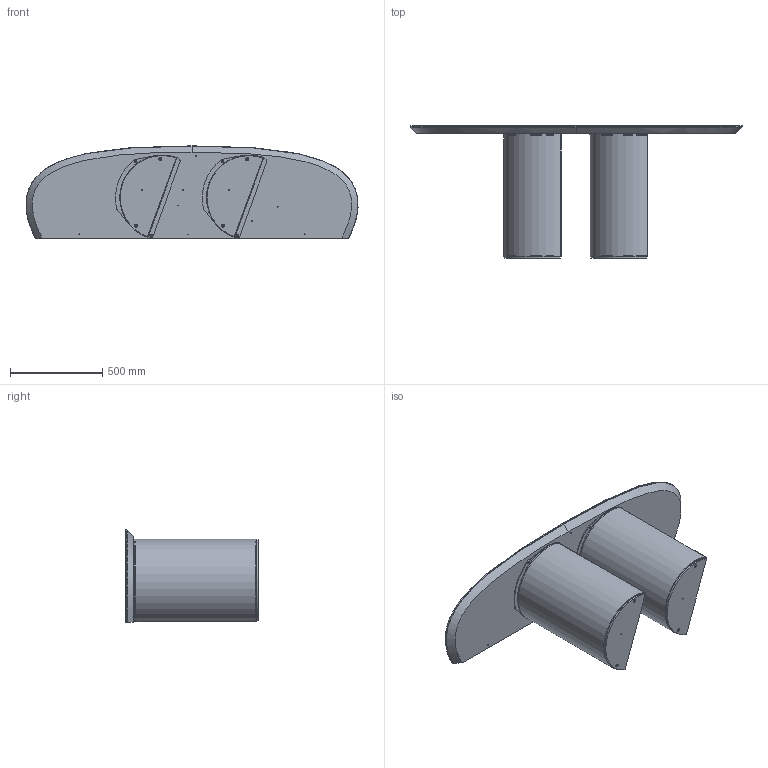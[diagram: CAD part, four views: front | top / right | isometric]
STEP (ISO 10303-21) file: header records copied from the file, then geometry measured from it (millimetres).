
FILE_DESCRIPTION (( 'STEP AP203' ), '1' );
FILE_NAME ('PL61C_Plai Console_180x50x72h_Ceramic.STEP', '2024-08-06T09:56:03', ( '' ), ( '' ), 'SwSTEP 2.0', 'SolidWorks 2022', '' );
FILE_SCHEMA (( 'CONFIG_CONTROL_DESIGN' ));
Length unit declared in the file: millimetre
Products named in the file (9): DOR000V01PST-00-DORA PIASTRA TELAIO; PLA000000ZOC-01-PLAI ZOCCOLO DELLA BASE; PL61C_Plai Console_180x50x72h_Ceramic; TRU000XXX-01-Sottopiano per ceramica_180x50; M8xXXmm_hex_M8X20mm; PLA000000BAS-00-PLAI BASE GREZZA; Assieme Basamento PLAI_Basamento per consolle; Kxx-00-Piano in ceramica_180x50; KXXXX-00-piani CERAMICA Sasso per console_180X50
Assembly tree (10 placements, depth 3):
  PL61C_Plai Console_180x50x72h_Ceramic
    KXXXX-00-piani CERAMICA Sasso per console_180X50
      Kxx-00-Piano in ceramica_180x50
      TRU000XXX-01-Sottopiano per ceramica_180x50
    Assieme Basamento PLAI_Basamento per consolle  x2
      PLA000000BAS-00-PLAI BASE GREZZA
      DOR000V01PST-00-DORA PIASTRA TELAIO
      PLA000000ZOC-01-PLAI ZOCCOLO DELLA BASE
      M8xXXmm_hex_M8X20mm
Bounding box: 1799.15 x 719 x 500 mm (x, y, z)
Volume: 38050793.2 mm3; surface area: 7635595 mm2
Topology: 18 solids, 18 shells, 398 faces, 913 edges, 527 vertices
Faces by surface type: plane 146, cylinder 146, cone 92, torus 8, bspline 6
Entity records: 8258 total; most frequent: CARTESIAN_POINT 2385, DIRECTION 1105, ORIENTED_EDGE 928, EDGE_CURVE 464, AXIS2_PLACEMENT_3D 434, VERTEX_POINT 290, EDGE_LOOP 260, VECTOR 237
